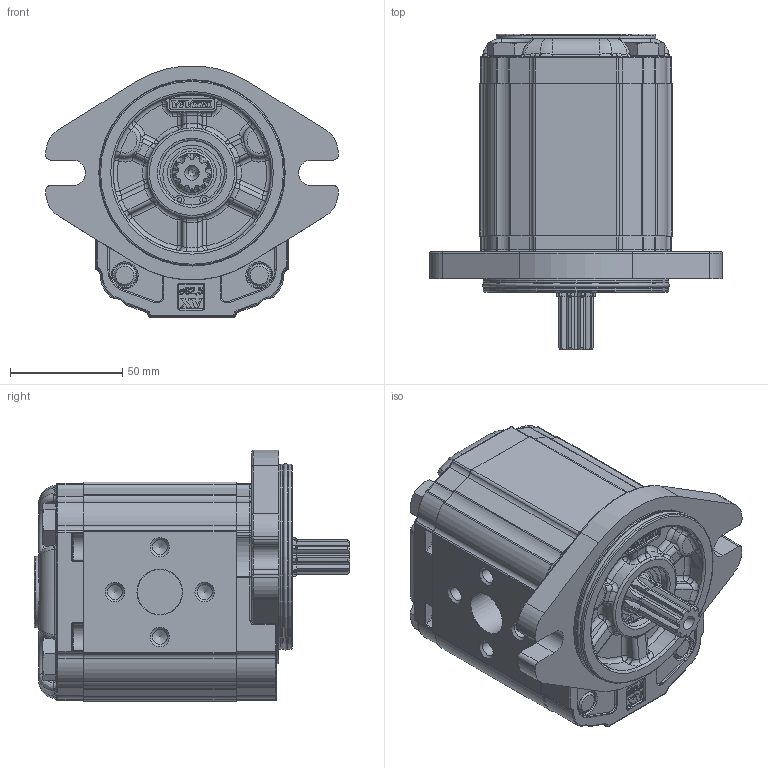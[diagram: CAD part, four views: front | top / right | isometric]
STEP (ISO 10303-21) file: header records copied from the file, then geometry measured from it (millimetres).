
FILE_DESCRIPTION(/* description */ ('Unknown'),/* implementation_level */ '2;1');
FILE_NAME(/* name */ 'X2R5131IPPE',/* time_stamp */ '2021-04-26T12:40:21+02:00',/* author */ ('Unknown'),/* organization */ ('Unknown'),/* preprocessor_version */ 'ST-DEVELOPER v16.7',/* originating_system */ 'Solid Edge',/* authorisation */ 'Unknown');
FILE_SCHEMA (('AUTOMOTIVE_DESIGN {1 0 10303 214 3 1 1}'));
Products named in the file (5): X2R5131IPPE; X2R31; 2I; X2PPH68; XR219-E
Assembly tree (4 placements, depth 2):
  X2R5131IPPE
    X2R31
    2I
    X2PPH68
    XR219-E
Bounding box: 130.38 x 140.7 x 112.3 mm (x, y, z)
Volume: 796583.7 mm3; surface area: 117914.2 mm2
Topology: 4 solids, 5 shells, 1569 faces, 3972 edges, 2480 vertices
Faces by surface type: plane 600, cylinder 443, bspline 210, torus 201, cone 89, sphere 26
Full cylindrical faces by diameter (mm): 2 x2, 6.647 x8, 11 x2, 11.445 x1, 11.5 x4, 16 x4, 17.42 x1, 17.48 x2, 18.724 x1, 20 x2, 20.595 x1, 21.741 x1, 25.834 x1, 28.56 x1, 28.57 x1, 28.8 x1, 30.4 x1, 79.6 x2, 82.5 x2
Entity records: 59389 total; most frequent: CARTESIAN_POINT 12975, ORIENTED_EDGE 7656, DIRECTION 7366, EDGE_CURVE 3828, AXIS2_PLACEMENT_3D 2727, VERTEX_POINT 2436, LINE 1912, VECTOR 1912
